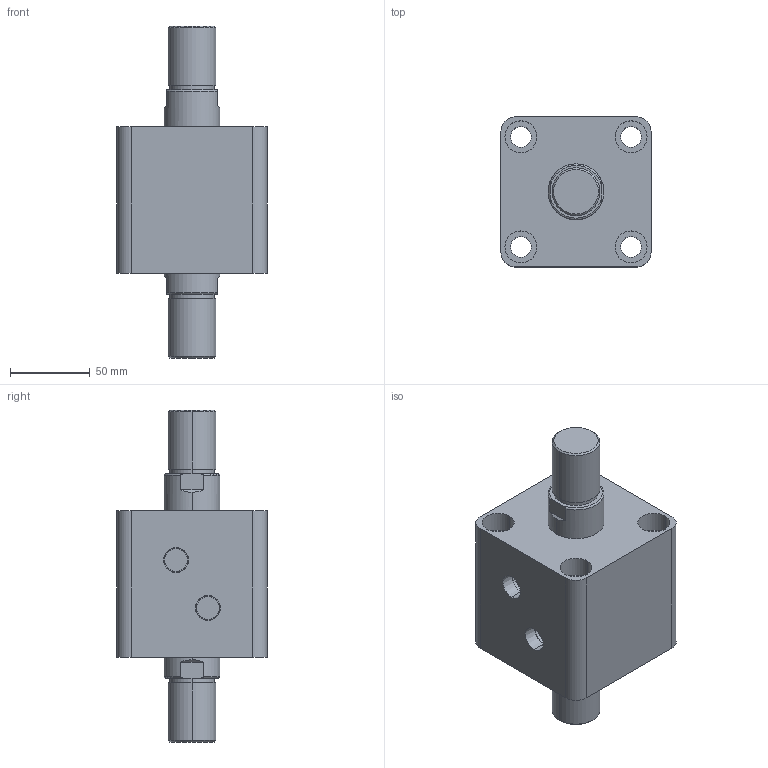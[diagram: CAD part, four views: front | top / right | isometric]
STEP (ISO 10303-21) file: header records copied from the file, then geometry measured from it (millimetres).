
FILE_DESCRIPTION (( 'STEP AP203' ), '1' );
FILE_NAME ('HTB-SW63-10W.STEP', '2019-10-07T09:30:10', ( '微软用户' ), ( '微软中国' ), 'SwSTEP 2.0', 'SolidWorks 2012', '' );
FILE_SCHEMA (( 'CONFIG_CONTROL_DESIGN' ));
Length unit declared in the file: millimetre
Products named in the file (3): HTB-SW63-10W; HTB-SW63-10W活塞杆; HTB-SW63-10掛极
Assembly tree (2 placements, depth 2):
  HTB-SW63-10W
    HTB-SW63-10掛极
    HTB-SW63-10W活塞杆
Bounding box: 94 x 94 x 208 mm (x, y, z)
Volume: 803420.7 mm3; surface area: 112494.2 mm2
Topology: 2 solids, 2 shells, 108 faces, 240 edges, 156 vertices
Faces by surface type: cylinder 52, plane 36, torus 12, cone 8
Entity records: 3465 total; most frequent: CARTESIAN_POINT 645, DIRECTION 586, ORIENTED_EDGE 480, AXIS2_PLACEMENT_3D 249, EDGE_CURVE 240, VERTEX_POINT 156, EDGE_LOOP 138, CIRCLE 136
